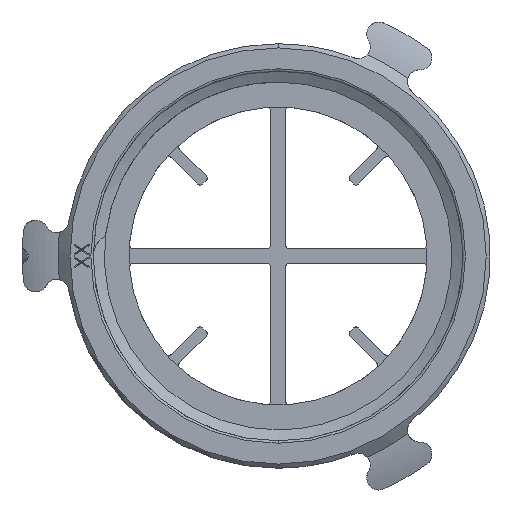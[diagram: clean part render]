
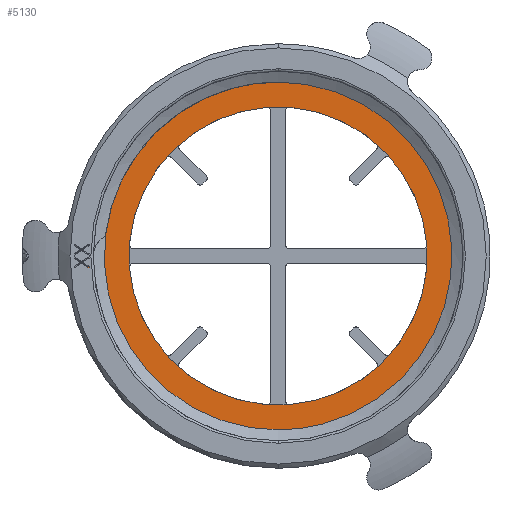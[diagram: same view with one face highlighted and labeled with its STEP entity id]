
A CAD part, left-side view. The second image highlights one B-rep face of the part: STEP entity #5130.
In plain terms, the highlighted planar face has unit normal (-1, 0, 0).
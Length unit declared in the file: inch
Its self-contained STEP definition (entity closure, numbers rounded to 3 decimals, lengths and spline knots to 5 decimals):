
#406 = CARTESIAN_POINT ( 'NONE',  ( -9.2575, 0., 0. ) ) ;
#407 = DIRECTION ( 'NONE',  ( 1., 0., 0. ) ) ;
#408 = DIRECTION ( 'NONE',  ( 0., 0.963, 0.271 ) ) ;
#413 = CARTESIAN_POINT ( 'NONE',  ( -9.2575, 0., 0. ) ) ;
#414 = DIRECTION ( 'NONE',  ( 1., 0., 0. ) ) ;
#415 = DIRECTION ( 'NONE',  ( 0., 0.963, 0.271 ) ) ;
#420 = CARTESIAN_POINT ( 'NONE',  ( -9.2575, 0., 0. ) ) ;
#421 = DIRECTION ( 'NONE',  ( 1., 0., 0. ) ) ;
#422 = DIRECTION ( 'NONE',  ( 0., 0.963, 0.271 ) ) ;
#423 = CARTESIAN_POINT ( 'NONE',  ( -9.2575, 0., 0. ) ) ;
#424 = DIRECTION ( 'NONE',  ( 1., 0., 0. ) ) ;
#425 = DIRECTION ( 'NONE',  ( 0., 0.963, 0.271 ) ) ;
#639 = AXIS2_PLACEMENT_3D ( 'NONE', #11444, #11442, #11448 ) ;
#787 = AXIS2_PLACEMENT_3D ( 'NONE', #406, #407, #408 ) ;
#789 = AXIS2_PLACEMENT_3D ( 'NONE', #413, #414, #415 ) ;
#791 = AXIS2_PLACEMENT_3D ( 'NONE', #420, #421, #422 ) ;
#792 = AXIS2_PLACEMENT_3D ( 'NONE', #423, #424, #425 ) ;
#4694 = EDGE_LOOP ( 'NONE', ( #5074, #5073 ) ) ;
#4699 = EDGE_LOOP ( 'NONE', ( #5076, #5075 ) ) ;
#5073 = ORIENTED_EDGE ( 'NONE', *, *, #12774, .T. ) ;
#5074 = ORIENTED_EDGE ( 'NONE', *, *, #12777, .T. ) ;
#5075 = ORIENTED_EDGE ( 'NONE', *, *, #12780, .F. ) ;
#5076 = ORIENTED_EDGE ( 'NONE', *, *, #12779, .F. ) ;
#5130 = ADVANCED_FACE ( 'NONE', ( #14865, #14868 ), #11446, .F. ) ;
#5555 = VERTEX_POINT ( 'NONE', #13607 ) ;
#5556 = VERTEX_POINT ( 'NONE', #13608 ) ;
#5564 = VERTEX_POINT ( 'NONE', #13616 ) ;
#5565 = VERTEX_POINT ( 'NONE', #13617 ) ;
#11442 = DIRECTION ( 'NONE',  ( 1., 0., 0. ) ) ;
#11444 = CARTESIAN_POINT ( 'NONE',  ( -9.2575, -0.33882, 1.20321 ) ) ;
#11446 = PLANE ( 'NONE',  #639 ) ;
#11448 = DIRECTION ( 'NONE',  ( 0., 0.963, 0.271 ) ) ;
#12774 = EDGE_CURVE ( 'NONE', #5556, #5564, #13289, .T. ) ;
#12777 = EDGE_CURVE ( 'NONE', #5564, #5556, #13293, .T. ) ;
#12779 = EDGE_CURVE ( 'NONE', #5555, #5565, #13298, .T. ) ;
#12780 = EDGE_CURVE ( 'NONE', #5565, #5555, #13295, .T. ) ;
#13289 = CIRCLE ( 'NONE', #787, 1.25 ) ;
#13293 = CIRCLE ( 'NONE', #789, 1.25 ) ;
#13295 = CIRCLE ( 'NONE', #792, 1.6 ) ;
#13298 = CIRCLE ( 'NONE', #791, 1.6 ) ;
#13607 = CARTESIAN_POINT ( 'NONE',  ( -9.2575, 1.5401, 0.43369 ) ) ;
#13608 = CARTESIAN_POINT ( 'NONE',  ( -9.2575, -1.20321, -0.33882 ) ) ;
#13616 = CARTESIAN_POINT ( 'NONE',  ( -9.2575, 1.20321, 0.33882 ) ) ;
#13617 = CARTESIAN_POINT ( 'NONE',  ( -9.2575, -1.5401, -0.43369 ) ) ;
#14865 = FACE_OUTER_BOUND ( 'NONE', #4699, .T. ) ;
#14868 = FACE_BOUND ( 'NONE', #4694, .T. ) ;
